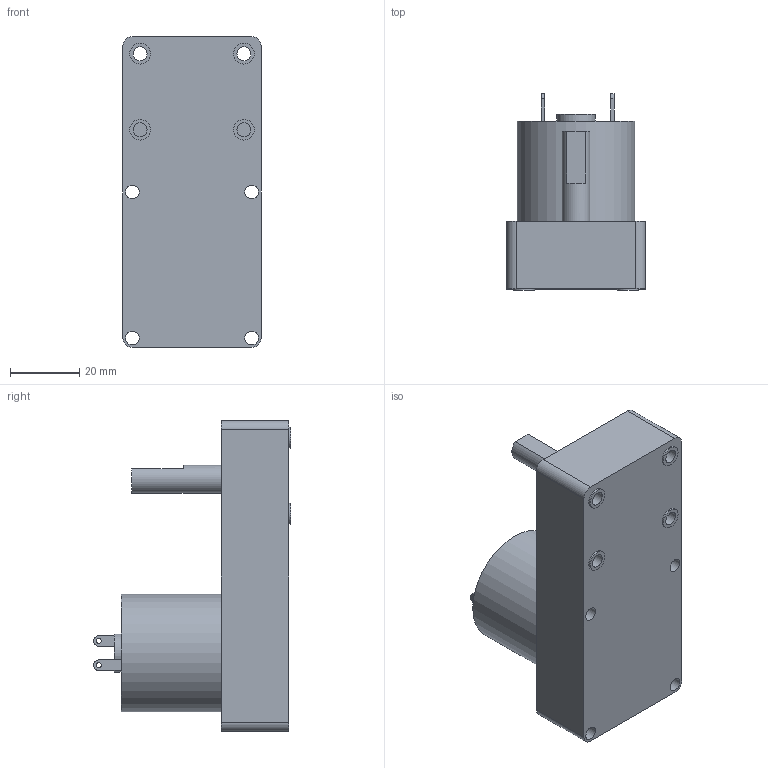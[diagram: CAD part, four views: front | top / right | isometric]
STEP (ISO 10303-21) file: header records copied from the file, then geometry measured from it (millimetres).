
FILE_DESCRIPTION((''),'2;1');
FILE_NAME('E:\2공장-도면\3D\표준형 3D(민규)\1공장 step\KGG R TYPE.stp','2015-02-26T12:33:22',('AHN'),(''),'Autodesk Inventor 2012','Autodesk Inventor 2012','');
FILE_SCHEMA(('CONFIG_CONTROL_DESIGN'));
Length unit declared in the file: millimetre
Products named in the file (1): KGG R타입
Bounding box: 40 x 57 x 90 mm (x, y, z)
Volume: 95971.8 mm3; surface area: 17961.5 mm2
Topology: 1 solids, 1 shells, 48 faces, 105 edges, 70 vertices
Faces by surface type: plane 25, cylinder 23
Full cylindrical faces by diameter (mm): 1.5 x2, 4 x8, 6 x4, 8 x1, 11 x1, 34 x1
Entity records: 1300 total; most frequent: DIRECTION 232, CARTESIAN_POINT 205, ORIENTED_EDGE 174, AXIS2_PLACEMENT_3D 96, EDGE_LOOP 92, EDGE_CURVE 87, VERTEX_POINT 69, FACE_OUTER_BOUND 48
